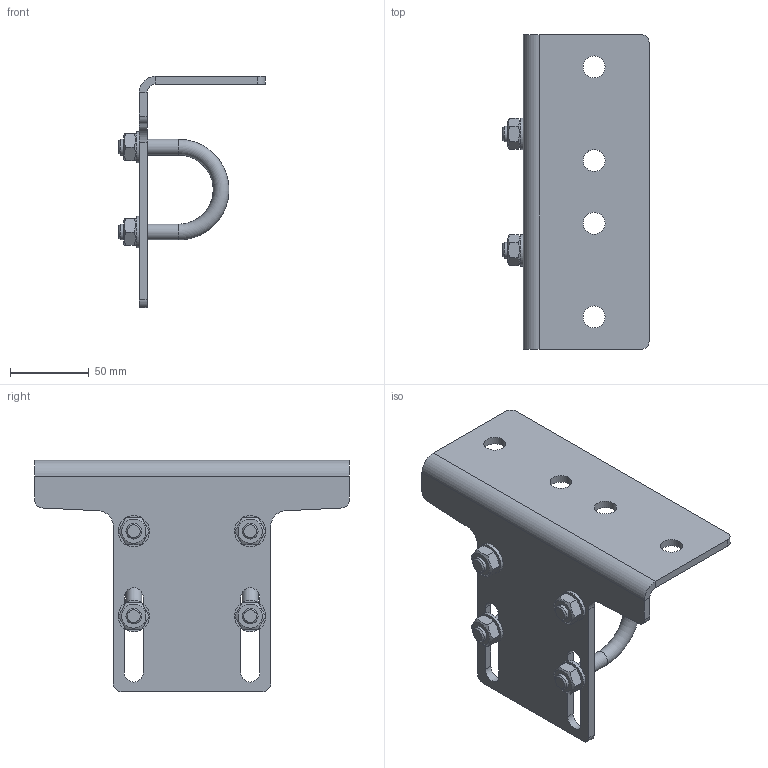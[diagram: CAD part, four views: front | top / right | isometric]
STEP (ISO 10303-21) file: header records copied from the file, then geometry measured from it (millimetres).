
FILE_DESCRIPTION(/* description */ (''),/* implementation_level */ '2;1');
FILE_NAME(/* name */ 'D:\VDV Techniek\Documents\Inventor\_ISP_Products\UDG on Round Tube Kit\Round tube kit original\STP\Round tube 42mm-in-Mounting bracket.stp',/* time_stamp */ '2022-12-29T15:04:20+01:00',/* author */ ('jos'),/* organization */ (''),/* preprocessor_version */ 'ST-DEVELOPER v15.2',/* originating_system */ 'Autodesk Inventor 2014',/* authorisation */ '');
FILE_SCHEMA (('AUTOMOTIVE_DESIGN { 1 0 10303 214 3 1 1 }'));
Length unit declared in the file: millimetre
Products named in the file (5): UDG_Mounting_Bracket_universal_HDG; Krambeugel 42mm; DIN 125 - A 10,5; DIN 934 - M10 x 1,5; Round tube 42mm-in-Mounting bracket
Assembly tree (11 placements, depth 2):
  Round tube 42mm-in-Mounting bracket
    UDG_Mounting_Bracket_universal_HDG
    Krambeugel 42mm  x2
    DIN 125 - A 10,5  x4
    DIN 934 - M10 x 1,5  x4
Bounding box: 93 x 200 x 147 mm (x, y, z)
Volume: 182840.4 mm3; surface area: 83464.4 mm2
Topology: 11 solids, 11 shells, 122 faces, 272 edges, 172 vertices
Faces by surface type: plane 64, cylinder 36, cone 20, torus 2
Full cylindrical faces by diameter (mm): 8.376 x4, 10 x4, 10.5 x4, 12 x2, 14 x4, 20 x4
Entity records: 1959 total; most frequent: DIRECTION 338, CARTESIAN_POINT 334, ORIENTED_EDGE 268, AXIS2_PLACEMENT_3D 136, EDGE_CURVE 134, EDGE_LOOP 102, VERTEX_POINT 96, LINE 66
